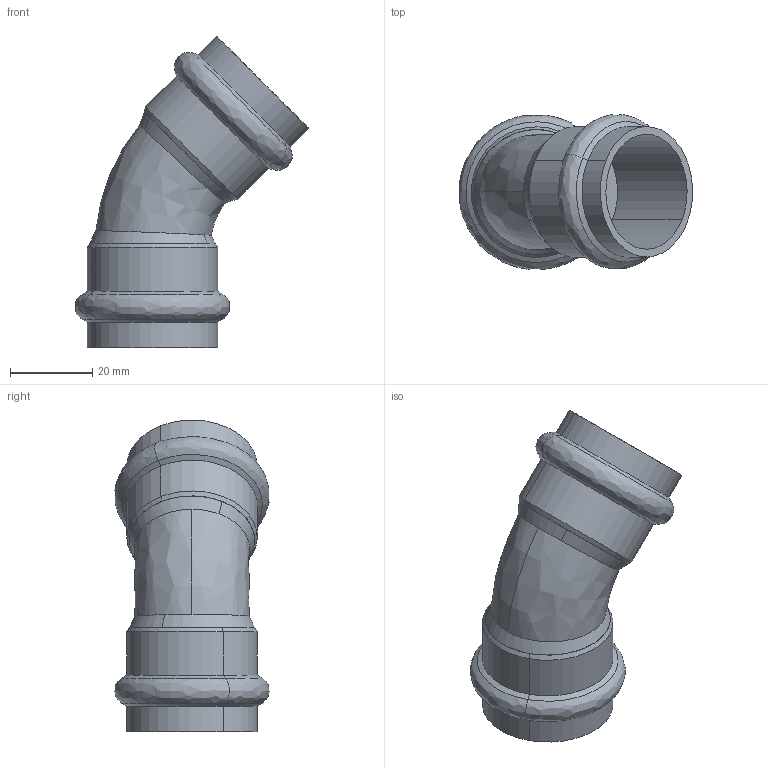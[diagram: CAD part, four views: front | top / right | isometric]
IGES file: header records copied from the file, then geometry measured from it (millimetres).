
Start section: 3D InterOp IGES (Version 26 1 0), Spatial Corp. Copyright (c) 1999-2007.
Global section: file name: pim0001296.igs; native system: Spatial Corp.; preprocessor: 3D InterOp ACIS/IGES; author: cad-pim; organization: TransMagic, Inc.; date: 20170130.105233; units: millimetre
Bounding box: 56.83 x 37.56 x 75.97 mm (x, y, z)
Volume: 29016.5 mm3; surface area: 13856.8 mm2
Topology: 1 solids, 1 shells, 40 faces, 82 edges, 48 vertices
Faces by surface type: bspline 40
